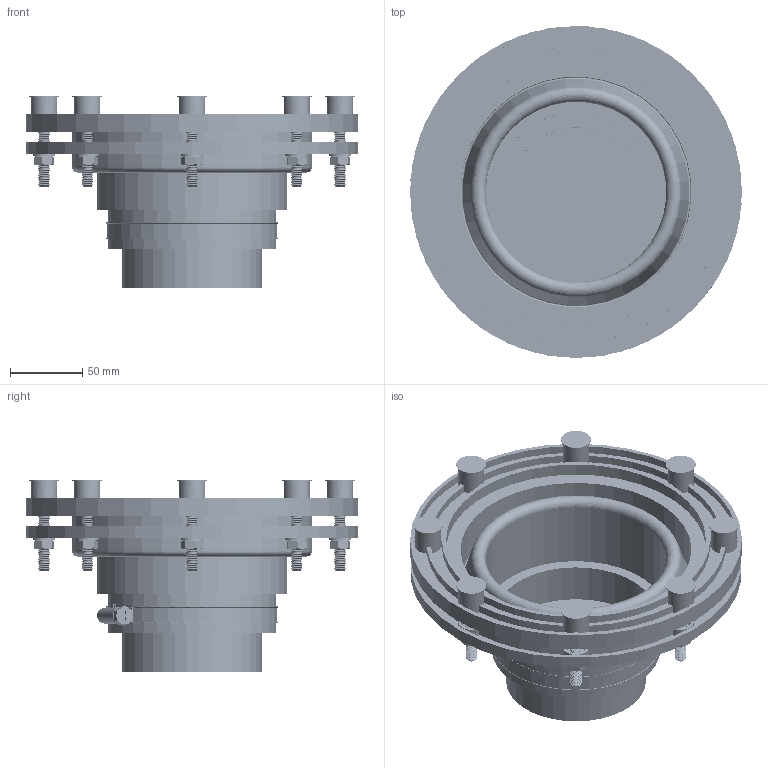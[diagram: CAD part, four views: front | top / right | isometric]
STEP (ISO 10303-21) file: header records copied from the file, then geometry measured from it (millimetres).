
FILE_DESCRIPTION (( 'STEP AP203' ), '1' );
FILE_NAME ('KPM_160-90.step', '2011-08-08T11:42:18', ( '' ), ( '' ), 'SwSTEP 2.0', 'SolidWorks 2011', '' );
FILE_SCHEMA (( 'CONFIG_CONTROL_DESIGN' ));
Length unit declared in the file: millimetre
Products named in the file (1): KPM_160-90
Bounding box: 230 x 230 x 132.58 mm (x, y, z)
Volume: 561530.4 mm3; surface area: 338209.3 mm2
Topology: 2 solids, 71 shells, 4125 faces, 9242 edges, 5261 vertices
Faces by surface type: cone 1412, torus 1208, cylinder 890, plane 613, sphere 2
Entity records: 117568 total; most frequent: CARTESIAN_POINT 23545, DIRECTION 22193, ORIENTED_EDGE 18484, AXIS2_PLACEMENT_3D 9629, EDGE_CURVE 9242, CIRCLE 5503, VERTEX_POINT 5261, EDGE_LOOP 4283
